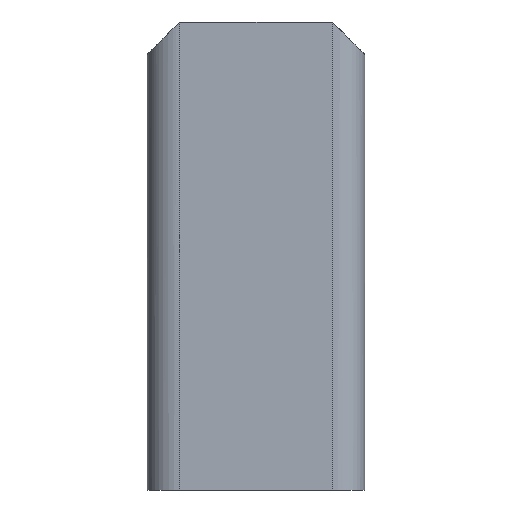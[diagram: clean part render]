
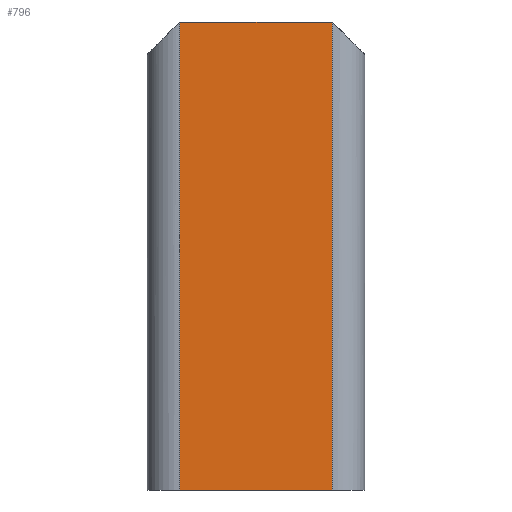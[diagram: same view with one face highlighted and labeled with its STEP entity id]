
A CAD part, left-side view. The second image highlights one B-rep face of the part: STEP entity #796.
In plain terms, the highlighted planar face has unit normal (-1, 0, 0).
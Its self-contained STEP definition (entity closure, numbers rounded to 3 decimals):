
#44 = PLANE('',#45);
#45 = AXIS2_PLACEMENT_3D('',#46,#47,#48);
#46 = CARTESIAN_POINT('',(0.,0.,0.));
#47 = DIRECTION('',(-0.,-0.,1.));
#48 = DIRECTION('',(1.,0.,0.));
#126 = CYLINDRICAL_SURFACE('',#127,15.);
#127 = AXIS2_PLACEMENT_3D('',#128,#129,#130);
#128 = CARTESIAN_POINT('',(-35.,-35.,0.));
#129 = DIRECTION('',(0.,-0.,-1.));
#130 = DIRECTION('',(-1.,-0.,-0.));
#143 = VERTEX_POINT('',#144);
#144 = CARTESIAN_POINT('',(-50.,-35.,0.));
#170 = EDGE_CURVE('',#143,#171,#173,.T.);
#171 = VERTEX_POINT('',#172);
#172 = CARTESIAN_POINT('',(-50.,35.,0.));
#173 = SURFACE_CURVE('',#174,(#178,#185),.PCURVE_S1.);
#174 = LINE('',#175,#176);
#175 = CARTESIAN_POINT('',(-50.,-35.,0.));
#176 = VECTOR('',#177,1.);
#177 = DIRECTION('',(-0.,1.,-0.));
#178 = PCURVE('',#44,#179);
#179 = DEFINITIONAL_REPRESENTATION('',(#180),#184);
#180 = LINE('',#181,#182);
#181 = CARTESIAN_POINT('',(-50.,-35.));
#182 = VECTOR('',#183,1.);
#183 = DIRECTION('',(-0.,1.));
#184 = ( GEOMETRIC_REPRESENTATION_CONTEXT(2) 
PARAMETRIC_REPRESENTATION_CONTEXT() REPRESENTATION_CONTEXT('2D SPACE',''
  ) );
#185 = PCURVE('',#186,#191);
#186 = PLANE('',#187);
#187 = AXIS2_PLACEMENT_3D('',#188,#189,#190);
#188 = CARTESIAN_POINT('',(-50.,-35.,0.));
#189 = DIRECTION('',(1.,-0.,-0.));
#190 = DIRECTION('',(0.,-1.,0.));
#191 = DEFINITIONAL_REPRESENTATION('',(#192),#196);
#192 = LINE('',#193,#194);
#193 = CARTESIAN_POINT('',(-0.,-0.));
#194 = VECTOR('',#195,1.);
#195 = DIRECTION('',(-1.,0.));
#196 = ( GEOMETRIC_REPRESENTATION_CONTEXT(2) 
PARAMETRIC_REPRESENTATION_CONTEXT() REPRESENTATION_CONTEXT('2D SPACE',''
  ) );
#219 = CYLINDRICAL_SURFACE('',#220,15.);
#220 = AXIS2_PLACEMENT_3D('',#221,#222,#223);
#221 = CARTESIAN_POINT('',(-35.,35.,0.));
#222 = DIRECTION('',(0.,-0.,-1.));
#223 = DIRECTION('',(-1.,-0.,-0.));
#598 = VERTEX_POINT('',#599);
#599 = CARTESIAN_POINT('',(-50.,-35.,215.));
#620 = CYLINDRICAL_SURFACE('',#621,15.);
#621 = AXIS2_PLACEMENT_3D('',#622,#623,#624);
#622 = CARTESIAN_POINT('',(-35.,-300.,215.));
#623 = DIRECTION('',(-0.,-1.,-0.));
#624 = DIRECTION('',(1.,-0.,-0.));
#638 = EDGE_CURVE('',#143,#598,#639,.T.);
#639 = SURFACE_CURVE('',#640,(#644,#651),.PCURVE_S1.);
#640 = LINE('',#641,#642);
#641 = CARTESIAN_POINT('',(-50.,-35.,0.));
#642 = VECTOR('',#643,1.);
#643 = DIRECTION('',(-0.,-0.,1.));
#644 = PCURVE('',#126,#645);
#645 = DEFINITIONAL_REPRESENTATION('',(#646),#650);
#646 = LINE('',#647,#648);
#647 = CARTESIAN_POINT('',(6.283,0.));
#648 = VECTOR('',#649,1.);
#649 = DIRECTION('',(0.,-1.));
#650 = ( GEOMETRIC_REPRESENTATION_CONTEXT(2) 
PARAMETRIC_REPRESENTATION_CONTEXT() REPRESENTATION_CONTEXT('2D SPACE',''
  ) );
#651 = PCURVE('',#186,#652);
#652 = DEFINITIONAL_REPRESENTATION('',(#653),#657);
#653 = LINE('',#654,#655);
#654 = CARTESIAN_POINT('',(-0.,-0.));
#655 = VECTOR('',#656,1.);
#656 = DIRECTION('',(-0.,-1.));
#657 = ( GEOMETRIC_REPRESENTATION_CONTEXT(2) 
PARAMETRIC_REPRESENTATION_CONTEXT() REPRESENTATION_CONTEXT('2D SPACE',''
  ) );
#796 = ADVANCED_FACE('',(#797),#186,.F.);
#797 = FACE_BOUND('',#798,.T.);
#798 = EDGE_LOOP('',(#799,#800,#823,#844));
#799 = ORIENTED_EDGE('',*,*,#638,.T.);
#800 = ORIENTED_EDGE('',*,*,#801,.T.);
#801 = EDGE_CURVE('',#598,#802,#804,.T.);
#802 = VERTEX_POINT('',#803);
#803 = CARTESIAN_POINT('',(-50.,35.,215.));
#804 = SURFACE_CURVE('',#805,(#809,#816),.PCURVE_S1.);
#805 = LINE('',#806,#807);
#806 = CARTESIAN_POINT('',(-50.,-35.,215.));
#807 = VECTOR('',#808,1.);
#808 = DIRECTION('',(-0.,1.,-0.));
#809 = PCURVE('',#186,#810);
#810 = DEFINITIONAL_REPRESENTATION('',(#811),#815);
#811 = LINE('',#812,#813);
#812 = CARTESIAN_POINT('',(-0.,-215.));
#813 = VECTOR('',#814,1.);
#814 = DIRECTION('',(-1.,0.));
#815 = ( GEOMETRIC_REPRESENTATION_CONTEXT(2) 
PARAMETRIC_REPRESENTATION_CONTEXT() REPRESENTATION_CONTEXT('2D SPACE',''
  ) );
#816 = PCURVE('',#620,#817);
#817 = DEFINITIONAL_REPRESENTATION('',(#818),#822);
#818 = LINE('',#819,#820);
#819 = CARTESIAN_POINT('',(3.142,-265.));
#820 = VECTOR('',#821,1.);
#821 = DIRECTION('',(0.,-1.));
#822 = ( GEOMETRIC_REPRESENTATION_CONTEXT(2) 
PARAMETRIC_REPRESENTATION_CONTEXT() REPRESENTATION_CONTEXT('2D SPACE',''
  ) );
#823 = ORIENTED_EDGE('',*,*,#824,.F.);
#824 = EDGE_CURVE('',#171,#802,#825,.T.);
#825 = SURFACE_CURVE('',#826,(#830,#837),.PCURVE_S1.);
#826 = LINE('',#827,#828);
#827 = CARTESIAN_POINT('',(-50.,35.,0.));
#828 = VECTOR('',#829,1.);
#829 = DIRECTION('',(-0.,-0.,1.));
#830 = PCURVE('',#186,#831);
#831 = DEFINITIONAL_REPRESENTATION('',(#832),#836);
#832 = LINE('',#833,#834);
#833 = CARTESIAN_POINT('',(-70.,-0.));
#834 = VECTOR('',#835,1.);
#835 = DIRECTION('',(-0.,-1.));
#836 = ( GEOMETRIC_REPRESENTATION_CONTEXT(2) 
PARAMETRIC_REPRESENTATION_CONTEXT() REPRESENTATION_CONTEXT('2D SPACE',''
  ) );
#837 = PCURVE('',#219,#838);
#838 = DEFINITIONAL_REPRESENTATION('',(#839),#843);
#839 = LINE('',#840,#841);
#840 = CARTESIAN_POINT('',(0.,0.));
#841 = VECTOR('',#842,1.);
#842 = DIRECTION('',(0.,-1.));
#843 = ( GEOMETRIC_REPRESENTATION_CONTEXT(2) 
PARAMETRIC_REPRESENTATION_CONTEXT() REPRESENTATION_CONTEXT('2D SPACE',''
  ) );
#844 = ORIENTED_EDGE('',*,*,#170,.F.);
